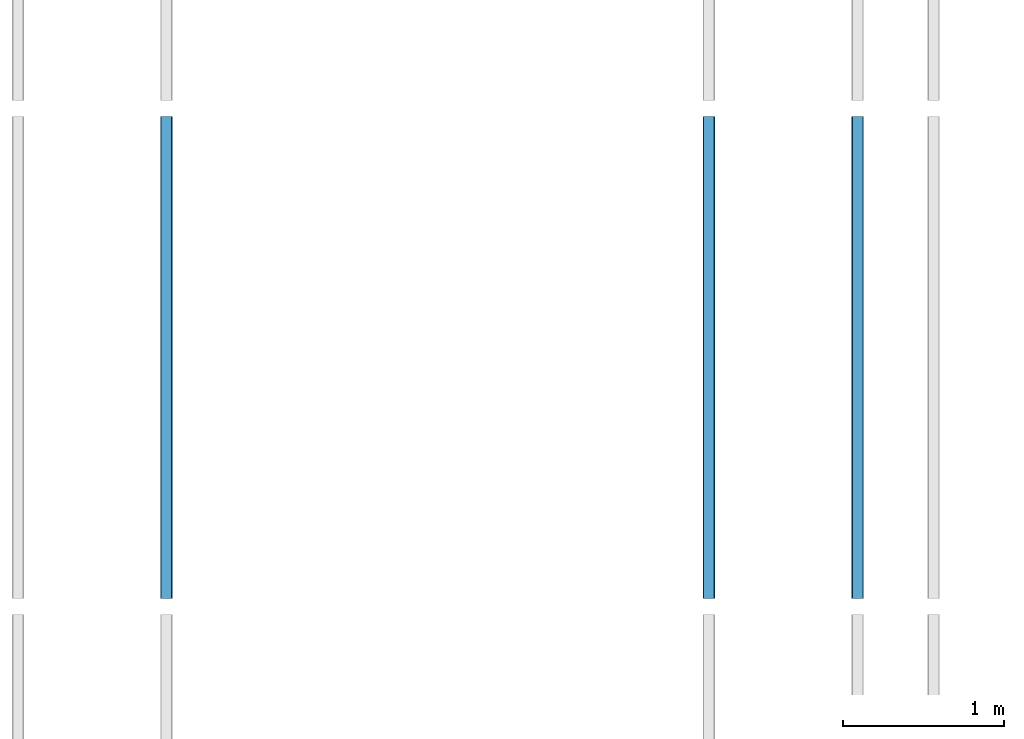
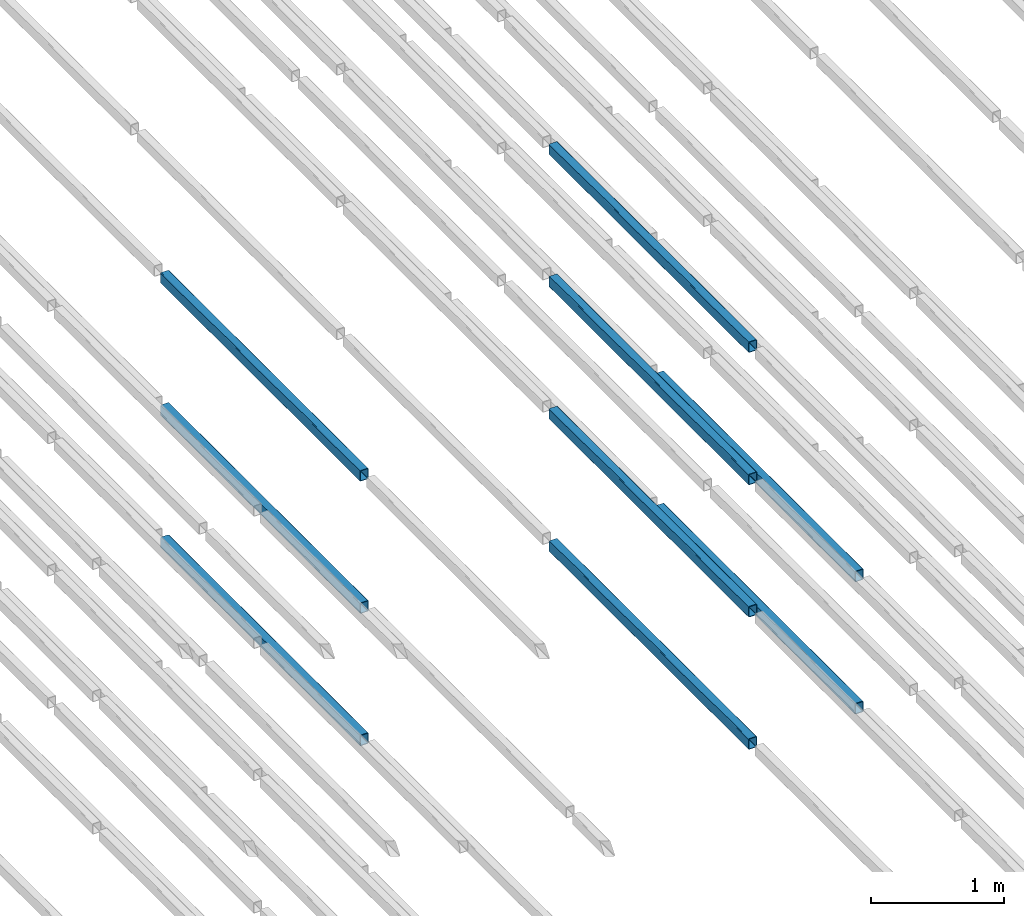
# One storey, part 64 of 290: 9 beams.
"""IFC2X3 building model written with IfcOpenShell, lengths in metres."""

from ifc_helpers import new_model, entity, si_unit, converted_unit, derived_unit, direction, frame, frame_2d, origin, place, context, subcontext, project, spatial, polyline, circle_curve, parameter, trimmed, segment, composite_curve, outline, extrude, material, type_object, element, save


model = new_model("IFC2X3")

# Units and contexts
model_context = context("Model", 3, precision=1e-05, world=origin(), true_north=direction((6.12303176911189e-17, 1.0)))
body_context = subcontext(model_context, "Body", "Model", "MODEL_VIEW")
ifc_project = project(units=[si_unit("LENGTHUNIT", "METRE"), si_unit("AREAUNIT", "SQUARE_METRE"), si_unit("VOLUMEUNIT", "CUBIC_METRE"), converted_unit("PLANEANGLEUNIT", "DEGREE", entity("IfcRatioMeasure", 0.0174532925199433), si_unit("PLANEANGLEUNIT", "RADIAN"), dimensions=[0, 0, 0, 0, 0, 0, 0]), si_unit("MASSUNIT", "GRAM", prefix="KILO"), derived_unit("MASSDENSITYUNIT", [(si_unit("MASSUNIT", "GRAM", prefix="KILO"), 1), (si_unit("LENGTHUNIT", "METRE"), -3)]), derived_unit("MOMENTOFINERTIAUNIT", [(si_unit("LENGTHUNIT", "METRE"), 4)]), si_unit("TIMEUNIT", "SECOND"), si_unit("FREQUENCYUNIT", "HERTZ"), si_unit("THERMODYNAMICTEMPERATUREUNIT", "DEGREE_CELSIUS"), derived_unit("THERMALTRANSMITTANCEUNIT", [(si_unit("MASSUNIT", "GRAM", prefix="KILO"), 1), (si_unit("THERMODYNAMICTEMPERATUREUNIT", "KELVIN"), -1), (si_unit("TIMEUNIT", "SECOND"), -3)]), derived_unit("VOLUMETRICFLOWRATEUNIT", [(si_unit("LENGTHUNIT", "METRE"), 3), (si_unit("TIMEUNIT", "SECOND"), -1)]), si_unit("ELECTRICCURRENTUNIT", "AMPERE"), si_unit("ELECTRICVOLTAGEUNIT", "VOLT"), si_unit("POWERUNIT", "WATT"), si_unit("FORCEUNIT", "NEWTON", prefix="KILO"), si_unit("ILLUMINANCEUNIT", "LUX"), si_unit("LUMINOUSFLUXUNIT", "LUMEN"), si_unit("LUMINOUSINTENSITYUNIT", "CANDELA"), derived_unit("USERDEFINED", [(si_unit("MASSUNIT", "GRAM", prefix="KILO"), -1), (si_unit("LENGTHUNIT", "METRE"), -2), (si_unit("TIMEUNIT", "SECOND"), 3), (si_unit("LUMINOUSFLUXUNIT", "LUMEN"), 1)]), derived_unit("LINEARVELOCITYUNIT", [(si_unit("LENGTHUNIT", "METRE"), 1), (si_unit("TIMEUNIT", "SECOND"), -1)]), si_unit("PRESSUREUNIT", "PASCAL"), derived_unit("USERDEFINED", [(si_unit("LENGTHUNIT", "METRE"), -2), (si_unit("MASSUNIT", "GRAM", prefix="KILO"), 1), (si_unit("TIMEUNIT", "SECOND"), -2)]), derived_unit("LINEARFORCEUNIT", [(si_unit("MASSUNIT", "GRAM", prefix="KILO"), 1), (si_unit("LENGTHUNIT", "METRE"), 1), (si_unit("TIMEUNIT", "SECOND"), -2), (si_unit("LENGTHUNIT", "METRE"), -1)]), derived_unit("PLANARFORCEUNIT", [(si_unit("MASSUNIT", "GRAM", prefix="KILO"), 1), (si_unit("LENGTHUNIT", "METRE"), 1), (si_unit("TIMEUNIT", "SECOND"), -2), (si_unit("LENGTHUNIT", "METRE"), -2)])], contexts=[model_context])

# Site, building, storey
site_placement = place(None, origin())
site = spatial("IfcSite", under=ifc_project, at=site_placement, Name="Default", CompositionType="ELEMENT")
building_placement = place(site_placement, origin())
building = spatial("IfcBuilding", under=site, at=building_placement, CompositionType="ELEMENT")
storey_placement = place(building_placement, frame((0.0, 0.0, 4.0)))
storey = spatial("IfcBuildingStorey", under=building, at=storey_placement, Name="01_OG", CompositionType="ELEMENT", Elevation=4.0)

# Beams
ifc_material = material(Name="Metall - Baustahl S235 blau")
beam_type = type_object("IfcBeamType", Name="RHS Träger (EN 10219-2):RHS 100 x 75 x 5", PredefinedType="NOTDEFINED")
beam_1_placement = place(storey_placement, frame((-194.165111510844, 39.548088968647, 0.0150000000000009), z_axis=(0.0, 0.0, 1.0), x_axis=(0.0, 1.0, 0.0)))
element("IfcBeam", 1, at=beam_1_placement, inside=storey, type_object=beam_type, material=ifc_material, Name="RHS Träger (EN 10219-2):RHS 100 x 75 x 5", ObjectType="RHS Träger (EN 10219-2):RHS 100 x 75 x 5", context=body_context, shape_type="SweptSolid", body=[
    extrude(outline(composite_curve([segment(polyline([(-0.0400000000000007, -0.0374999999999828), (0.0399999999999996, -0.0374999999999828)]), True, "CONTINUOUS"), segment(trimmed(circle_curve(frame_2d((0.0399999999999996, -0.0274999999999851), x_axis=(0.0, 1.0)), 0.01), [parameter(180.0)], [parameter(270.0)], True, "PARAMETER"), True, "CONTINUOUS"), segment(polyline([(0.0499999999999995, -0.0274999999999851), (0.0499999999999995, 0.0274999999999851)]), True, "CONTINUOUS"), segment(trimmed(circle_curve(frame_2d((0.0399999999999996, 0.0274999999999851), x_axis=(0.0, 1.0)), 0.01), [parameter(270.0)], [parameter(4.07110999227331e-13)], True, "PARAMETER"), True, "CONTINUOUS"), segment(polyline([(0.0399999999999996, 0.0375000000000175), (-0.0400000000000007, 0.0375000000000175)]), True, "CONTINUOUS"), segment(trimmed(circle_curve(frame_2d((-0.0400000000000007, 0.0274999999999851), x_axis=(0.0, 1.0)), 0.01), [parameter(360.0)], [parameter(90.0000000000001)], True, "PARAMETER"), True, "CONTINUOUS"), segment(polyline([(-0.0500000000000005, 0.0274999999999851), (-0.0500000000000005, -0.0274999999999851)]), True, "CONTINUOUS"), segment(trimmed(circle_curve(frame_2d((-0.0400000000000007, -0.0274999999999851), x_axis=(0.0, 1.0)), 0.01), [parameter(90.0000000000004)], [parameter(180.0)], True, "PARAMETER"), True, "CONTINUOUS")], self_intersect=False), holes=[composite_curve([segment(trimmed(circle_curve(frame_2d((-0.0400000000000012, 0.0274999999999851), x_axis=(0.0, 1.0)), 0.005), [parameter(360.0)], [parameter(89.9999999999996)], True, "PARAMETER"), False, "CONTINUOUS"), segment(polyline([(-0.0400000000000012, 0.0325000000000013), (0.0399999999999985, 0.0325000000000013)]), True, "CONTINUOUS"), segment(trimmed(circle_curve(frame_2d((0.0399999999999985, 0.0274999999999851), x_axis=(0.0, 1.0)), 0.005), [parameter(270.0)], [parameter(0.0)], True, "PARAMETER"), False, "CONTINUOUS"), segment(polyline([(0.0449999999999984, 0.0274999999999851), (0.0449999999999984, -0.0274999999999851)]), True, "CONTINUOUS"), segment(trimmed(circle_curve(frame_2d((0.0399999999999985, -0.0274999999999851), x_axis=(0.0, 1.0)), 0.005), [parameter(180.0)], [parameter(269.999999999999)], True, "PARAMETER"), False, "CONTINUOUS"), segment(polyline([(0.0399999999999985, -0.0325000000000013), (-0.0400000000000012, -0.0325000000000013)]), True, "CONTINUOUS"), segment(trimmed(circle_curve(frame_2d((-0.0400000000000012, -0.0274999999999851), x_axis=(0.0, 1.0)), 0.005), [parameter(90.0000000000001)], [parameter(180.0)], True, "PARAMETER"), False, "CONTINUOUS"), segment(polyline([(-0.0450000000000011, -0.0274999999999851), (-0.0450000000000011, 0.0274999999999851)]), True, "CONTINUOUS")], self_intersect=False)]), frame((0.000100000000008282, -0.0375000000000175, -0.0500000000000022), z_axis=(1.0, 0.0, 0.0), x_axis=(0.0, 0.0, -1.0)), (0.0, 0.0, 1.0), 2.99979999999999),
])
beam_2_placement = place(storey_placement, frame((-194.165111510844, 39.548088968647, 1.23), z_axis=(0.0, 0.0, 1.0), x_axis=(0.0, 1.0, 0.0)))
element("IfcBeam", 2, at=beam_2_placement, inside=storey, type_object=beam_type, material=ifc_material, Name="RHS Träger (EN 10219-2):RHS 100 x 75 x 5", ObjectType="RHS Träger (EN 10219-2):RHS 100 x 75 x 5", context=body_context, shape_type="SweptSolid", body=[
    extrude(outline(composite_curve([segment(polyline([(-0.0399999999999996, -0.0374999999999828), (0.0399999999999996, -0.0374999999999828)]), True, "CONTINUOUS"), segment(trimmed(circle_curve(frame_2d((0.0399999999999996, -0.0274999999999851), x_axis=(0.0, 1.0)), 0.01), [parameter(180.0)], [parameter(270.0)], True, "PARAMETER"), True, "CONTINUOUS"), segment(polyline([(0.0500000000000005, -0.0274999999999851), (0.0500000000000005, 0.0274999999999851)]), True, "CONTINUOUS"), segment(trimmed(circle_curve(frame_2d((0.0399999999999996, 0.0274999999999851), x_axis=(0.0, 1.0)), 0.01), [parameter(270.0)], [parameter(4.07110999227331e-13)], True, "PARAMETER"), True, "CONTINUOUS"), segment(polyline([(0.0399999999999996, 0.0375000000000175), (-0.0399999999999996, 0.0375000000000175)]), True, "CONTINUOUS"), segment(trimmed(circle_curve(frame_2d((-0.0399999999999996, 0.0274999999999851), x_axis=(0.0, 1.0)), 0.01), [parameter(360.0)], [parameter(90.0000000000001)], True, "PARAMETER"), True, "CONTINUOUS"), segment(polyline([(-0.0499999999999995, 0.0274999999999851), (-0.0499999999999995, -0.0274999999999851)]), True, "CONTINUOUS"), segment(trimmed(circle_curve(frame_2d((-0.0399999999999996, -0.0274999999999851), x_axis=(0.0, 1.0)), 0.01), [parameter(90.0000000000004)], [parameter(180.0)], True, "PARAMETER"), True, "CONTINUOUS")], self_intersect=False), holes=[composite_curve([segment(trimmed(circle_curve(frame_2d((-0.0400000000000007, 0.0274999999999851), x_axis=(0.0, 1.0)), 0.005), [parameter(360.0)], [parameter(89.9999999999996)], True, "PARAMETER"), False, "CONTINUOUS"), segment(polyline([(-0.0400000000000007, 0.0325000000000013), (0.0399999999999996, 0.0325000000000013)]), True, "CONTINUOUS"), segment(trimmed(circle_curve(frame_2d((0.0399999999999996, 0.0274999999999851), x_axis=(0.0, 1.0)), 0.005), [parameter(270.0)], [parameter(0.0)], True, "PARAMETER"), False, "CONTINUOUS"), segment(polyline([(0.0449999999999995, 0.0274999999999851), (0.0449999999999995, -0.0274999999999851)]), True, "CONTINUOUS"), segment(trimmed(circle_curve(frame_2d((0.0399999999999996, -0.0274999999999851), x_axis=(0.0, 1.0)), 0.005), [parameter(180.0)], [parameter(269.999999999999)], True, "PARAMETER"), False, "CONTINUOUS"), segment(polyline([(0.0399999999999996, -0.0325000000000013), (-0.0400000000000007, -0.0325000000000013)]), True, "CONTINUOUS"), segment(trimmed(circle_curve(frame_2d((-0.0400000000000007, -0.0274999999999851), x_axis=(0.0, 1.0)), 0.005), [parameter(90.0000000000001)], [parameter(180.0)], True, "PARAMETER"), False, "CONTINUOUS"), segment(polyline([(-0.0450000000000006, -0.0274999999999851), (-0.0450000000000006, 0.0274999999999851)]), True, "CONTINUOUS")], self_intersect=False)]), frame((0.000100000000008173, -0.0375000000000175, -0.0500000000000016), z_axis=(1.0, 0.0, 0.0), x_axis=(0.0, 0.0, -1.0)), (0.0, 0.0, 1.0), 2.99979999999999),
])
beam_3_placement = place(storey_placement, frame((-194.165111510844, 39.548088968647, 2.445), z_axis=(0.0, 0.0, 1.0), x_axis=(0.0, 1.0, 0.0)))
element("IfcBeam", 3, at=beam_3_placement, inside=storey, type_object=beam_type, material=ifc_material, Name="RHS Träger (EN 10219-2):RHS 100 x 75 x 5", ObjectType="RHS Träger (EN 10219-2):RHS 100 x 75 x 5", context=body_context, shape_type="SweptSolid", body=[
    extrude(outline(composite_curve([segment(polyline([(-0.0399999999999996, -0.0374999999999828), (0.0399999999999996, -0.0374999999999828)]), True, "CONTINUOUS"), segment(trimmed(circle_curve(frame_2d((0.0399999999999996, -0.0274999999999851), x_axis=(0.0, 1.0)), 0.01), [parameter(180.0)], [parameter(270.0)], True, "PARAMETER"), True, "CONTINUOUS"), segment(polyline([(0.0500000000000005, -0.0274999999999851), (0.0500000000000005, 0.0274999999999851)]), True, "CONTINUOUS"), segment(trimmed(circle_curve(frame_2d((0.0399999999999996, 0.0274999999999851), x_axis=(0.0, 1.0)), 0.01), [parameter(270.0)], [parameter(4.07110999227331e-13)], True, "PARAMETER"), True, "CONTINUOUS"), segment(polyline([(0.0399999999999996, 0.0375000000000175), (-0.0399999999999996, 0.0375000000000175)]), True, "CONTINUOUS"), segment(trimmed(circle_curve(frame_2d((-0.0399999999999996, 0.0274999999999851), x_axis=(0.0, 1.0)), 0.01), [parameter(360.0)], [parameter(90.0000000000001)], True, "PARAMETER"), True, "CONTINUOUS"), segment(polyline([(-0.0499999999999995, 0.0274999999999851), (-0.0499999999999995, -0.0274999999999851)]), True, "CONTINUOUS"), segment(trimmed(circle_curve(frame_2d((-0.0399999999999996, -0.0274999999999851), x_axis=(0.0, 1.0)), 0.01), [parameter(90.0000000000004)], [parameter(180.0)], True, "PARAMETER"), True, "CONTINUOUS")], self_intersect=False), holes=[composite_curve([segment(trimmed(circle_curve(frame_2d((-0.0400000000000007, 0.0274999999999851), x_axis=(0.0, 1.0)), 0.005), [parameter(360.0)], [parameter(89.9999999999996)], True, "PARAMETER"), False, "CONTINUOUS"), segment(polyline([(-0.0400000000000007, 0.0325000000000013), (0.0399999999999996, 0.0325000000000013)]), True, "CONTINUOUS"), segment(trimmed(circle_curve(frame_2d((0.0399999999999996, 0.0274999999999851), x_axis=(0.0, 1.0)), 0.005), [parameter(270.0)], [parameter(0.0)], True, "PARAMETER"), False, "CONTINUOUS"), segment(polyline([(0.0449999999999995, 0.0274999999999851), (0.0449999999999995, -0.0274999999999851)]), True, "CONTINUOUS"), segment(trimmed(circle_curve(frame_2d((0.0399999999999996, -0.0274999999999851), x_axis=(0.0, 1.0)), 0.005), [parameter(180.0)], [parameter(269.999999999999)], True, "PARAMETER"), False, "CONTINUOUS"), segment(polyline([(0.0399999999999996, -0.0325000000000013), (-0.0400000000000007, -0.0325000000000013)]), True, "CONTINUOUS"), segment(trimmed(circle_curve(frame_2d((-0.0400000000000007, -0.0274999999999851), x_axis=(0.0, 1.0)), 0.005), [parameter(90.0000000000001)], [parameter(180.0)], True, "PARAMETER"), False, "CONTINUOUS"), segment(polyline([(-0.0450000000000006, -0.0274999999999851), (-0.0450000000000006, 0.0274999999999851)]), True, "CONTINUOUS")], self_intersect=False)]), frame((0.000100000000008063, -0.0375000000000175, -0.0500000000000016), z_axis=(1.0, 0.0, 0.0), x_axis=(0.0, 0.0, -1.0)), (0.0, 0.0, 1.0), 2.99979999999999),
])
beam_4_placement = place(storey_placement, frame((-190.715111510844, 39.548088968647, -1.2), z_axis=(0.0, 0.0, 1.0), x_axis=(0.0, 1.0, 0.0)))
element("IfcBeam", 4, at=beam_4_placement, inside=storey, type_object=beam_type, material=ifc_material, Name="RHS Träger (EN 10219-2):RHS 100 x 75 x 5", ObjectType="RHS Träger (EN 10219-2):RHS 100 x 75 x 5", context=body_context, shape_type="SweptSolid", body=[
    extrude(outline(composite_curve([segment(trimmed(circle_curve(frame_2d((-0.0274999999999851, -0.0400000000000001), x_axis=(1.0, 0.0)), 0.01), [parameter(180.0)], [parameter(270.0)], True, "PARAMETER"), True, "CONTINUOUS"), segment(polyline([(-0.0274999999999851, -0.05), (0.0274999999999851, -0.05)]), True, "CONTINUOUS"), segment(trimmed(circle_curve(frame_2d((0.0274999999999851, -0.0400000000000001), x_axis=(1.0, 0.0)), 0.01), [parameter(270.0)], [parameter(5.08888749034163e-14)], True, "PARAMETER"), True, "CONTINUOUS"), segment(polyline([(0.0375000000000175, -0.0400000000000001), (0.0375000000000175, 0.0400000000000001)]), True, "CONTINUOUS"), segment(trimmed(circle_curve(frame_2d((0.0274999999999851, 0.0400000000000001), x_axis=(1.0, 0.0)), 0.01), [parameter(360.0)], [parameter(89.9999999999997)], True, "PARAMETER"), True, "CONTINUOUS"), segment(polyline([(0.0274999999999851, 0.05), (-0.0274999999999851, 0.05)]), True, "CONTINUOUS"), segment(trimmed(circle_curve(frame_2d((-0.0274999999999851, 0.0400000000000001), x_axis=(1.0, 0.0)), 0.01), [parameter(90.0000000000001)], [parameter(180.0)], True, "PARAMETER"), True, "CONTINUOUS"), segment(polyline([(-0.0374999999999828, 0.0400000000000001), (-0.0374999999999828, -0.0400000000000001)]), True, "CONTINUOUS")], self_intersect=False), holes=[composite_curve([segment(polyline([(0.0274999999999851, -0.0450000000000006), (-0.0274999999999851, -0.0450000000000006)]), True, "CONTINUOUS"), segment(trimmed(circle_curve(frame_2d((-0.0274999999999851, -0.0400000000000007), x_axis=(1.0, 0.0)), 0.005), [parameter(180.0)], [parameter(270.0)], True, "PARAMETER"), False, "CONTINUOUS"), segment(polyline([(-0.0325000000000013, -0.0400000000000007), (-0.0325000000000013, 0.039999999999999)]), True, "CONTINUOUS"), segment(trimmed(circle_curve(frame_2d((-0.0274999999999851, 0.039999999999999), x_axis=(1.0, 0.0)), 0.005), [parameter(90.0000000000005)], [parameter(180.0)], True, "PARAMETER"), False, "CONTINUOUS"), segment(polyline([(-0.0274999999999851, 0.044999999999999), (0.0274999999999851, 0.044999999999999)]), True, "CONTINUOUS"), segment(trimmed(circle_curve(frame_2d((0.0274999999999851, 0.039999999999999), x_axis=(1.0, 0.0)), 0.005), [parameter(0.0)], [parameter(90.0000000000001)], True, "PARAMETER"), False, "CONTINUOUS"), segment(polyline([(0.0325000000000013, 0.039999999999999), (0.0325000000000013, -0.0400000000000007)]), True, "CONTINUOUS"), segment(trimmed(circle_curve(frame_2d((0.0274999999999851, -0.0400000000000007), x_axis=(1.0, 0.0)), 0.005), [parameter(270.0)], [parameter(4.07110999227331e-13)], True, "PARAMETER"), False, "CONTINUOUS")], self_intersect=False)]), frame((9.99999999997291e-05, 0.0375000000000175, -0.0500000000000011), z_axis=(1.0, 0.0, 0.0), x_axis=(0.0, -1.0, 0.0)), (0.0, 0.0, 1.0), 2.99979999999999),
])
beam_5_placement = place(storey_placement, frame((-190.715111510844, 39.548088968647, 0.0150000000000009), z_axis=(0.0, 0.0, 1.0), x_axis=(0.0, 1.0, 0.0)))
element("IfcBeam", 5, at=beam_5_placement, inside=storey, type_object=beam_type, material=ifc_material, Name="RHS Träger (EN 10219-2):RHS 100 x 75 x 5", ObjectType="RHS Träger (EN 10219-2):RHS 100 x 75 x 5", context=body_context, shape_type="SweptSolid", body=[
    extrude(outline(composite_curve([segment(trimmed(circle_curve(frame_2d((-0.0274999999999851, -0.0400000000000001), x_axis=(1.0, 0.0)), 0.01), [parameter(180.0)], [parameter(270.0)], True, "PARAMETER"), True, "CONTINUOUS"), segment(polyline([(-0.0274999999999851, -0.05), (0.0274999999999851, -0.05)]), True, "CONTINUOUS"), segment(trimmed(circle_curve(frame_2d((0.0274999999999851, -0.0400000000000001), x_axis=(1.0, 0.0)), 0.01), [parameter(270.0)], [parameter(5.08888749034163e-14)], True, "PARAMETER"), True, "CONTINUOUS"), segment(polyline([(0.0375000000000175, -0.0400000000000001), (0.0375000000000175, 0.0400000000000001)]), True, "CONTINUOUS"), segment(trimmed(circle_curve(frame_2d((0.0274999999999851, 0.0400000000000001), x_axis=(1.0, 0.0)), 0.01), [parameter(360.0)], [parameter(89.9999999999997)], True, "PARAMETER"), True, "CONTINUOUS"), segment(polyline([(0.0274999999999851, 0.05), (-0.0274999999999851, 0.05)]), True, "CONTINUOUS"), segment(trimmed(circle_curve(frame_2d((-0.0274999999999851, 0.0400000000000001), x_axis=(1.0, 0.0)), 0.01), [parameter(90.0000000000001)], [parameter(180.0)], True, "PARAMETER"), True, "CONTINUOUS"), segment(polyline([(-0.0374999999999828, 0.0400000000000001), (-0.0374999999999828, -0.0400000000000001)]), True, "CONTINUOUS")], self_intersect=False), holes=[composite_curve([segment(polyline([(0.0274999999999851, -0.0450000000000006), (-0.0274999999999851, -0.0450000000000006)]), True, "CONTINUOUS"), segment(trimmed(circle_curve(frame_2d((-0.0274999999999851, -0.0400000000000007), x_axis=(1.0, 0.0)), 0.005), [parameter(180.0)], [parameter(270.0)], True, "PARAMETER"), False, "CONTINUOUS"), segment(polyline([(-0.0325000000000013, -0.0400000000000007), (-0.0325000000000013, 0.039999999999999)]), True, "CONTINUOUS"), segment(trimmed(circle_curve(frame_2d((-0.0274999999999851, 0.039999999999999), x_axis=(1.0, 0.0)), 0.005), [parameter(90.0000000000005)], [parameter(180.0)], True, "PARAMETER"), False, "CONTINUOUS"), segment(polyline([(-0.0274999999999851, 0.044999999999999), (0.0274999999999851, 0.044999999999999)]), True, "CONTINUOUS"), segment(trimmed(circle_curve(frame_2d((0.0274999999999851, 0.039999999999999), x_axis=(1.0, 0.0)), 0.005), [parameter(0.0)], [parameter(90.0000000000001)], True, "PARAMETER"), False, "CONTINUOUS"), segment(polyline([(0.0325000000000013, 0.039999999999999), (0.0325000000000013, -0.0400000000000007)]), True, "CONTINUOUS"), segment(trimmed(circle_curve(frame_2d((0.0274999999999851, -0.0400000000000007), x_axis=(1.0, 0.0)), 0.005), [parameter(270.0)], [parameter(4.07110999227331e-13)], True, "PARAMETER"), False, "CONTINUOUS")], self_intersect=False)]), frame((9.99999999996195e-05, 0.0375000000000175, -0.0500000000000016), z_axis=(1.0, 0.0, 0.0), x_axis=(0.0, -1.0, 0.0)), (0.0, 0.0, 1.0), 2.99979999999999),
])
beam_6_placement = place(storey_placement, frame((-190.715111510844, 39.548088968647, 1.23), z_axis=(0.0, 0.0, 1.0), x_axis=(0.0, 1.0, 0.0)))
element("IfcBeam", 6, at=beam_6_placement, inside=storey, type_object=beam_type, material=ifc_material, Name="RHS Träger (EN 10219-2):RHS 100 x 75 x 5", ObjectType="RHS Träger (EN 10219-2):RHS 100 x 75 x 5", context=body_context, shape_type="SweptSolid", body=[
    extrude(outline(composite_curve([segment(trimmed(circle_curve(frame_2d((-0.0274999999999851, -0.0399999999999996), x_axis=(1.0, 0.0)), 0.01), [parameter(180.0)], [parameter(270.0)], True, "PARAMETER"), True, "CONTINUOUS"), segment(polyline([(-0.0274999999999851, -0.0499999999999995), (0.0274999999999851, -0.0499999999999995)]), True, "CONTINUOUS"), segment(trimmed(circle_curve(frame_2d((0.0274999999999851, -0.0399999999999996), x_axis=(1.0, 0.0)), 0.01), [parameter(270.0)], [parameter(5.08888749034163e-14)], True, "PARAMETER"), True, "CONTINUOUS"), segment(polyline([(0.0375000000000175, -0.0399999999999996), (0.0375000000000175, 0.0399999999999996)]), True, "CONTINUOUS"), segment(trimmed(circle_curve(frame_2d((0.0274999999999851, 0.0399999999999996), x_axis=(1.0, 0.0)), 0.01), [parameter(360.0)], [parameter(89.9999999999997)], True, "PARAMETER"), True, "CONTINUOUS"), segment(polyline([(0.0274999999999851, 0.0500000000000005), (-0.0274999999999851, 0.0500000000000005)]), True, "CONTINUOUS"), segment(trimmed(circle_curve(frame_2d((-0.0274999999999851, 0.0399999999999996), x_axis=(1.0, 0.0)), 0.01), [parameter(90.0000000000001)], [parameter(180.0)], True, "PARAMETER"), True, "CONTINUOUS"), segment(polyline([(-0.0374999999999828, 0.0399999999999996), (-0.0374999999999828, -0.0399999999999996)]), True, "CONTINUOUS")], self_intersect=False), holes=[composite_curve([segment(polyline([(0.0274999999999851, -0.0450000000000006), (-0.0274999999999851, -0.0450000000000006)]), True, "CONTINUOUS"), segment(trimmed(circle_curve(frame_2d((-0.0274999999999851, -0.0400000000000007), x_axis=(1.0, 0.0)), 0.005), [parameter(180.0)], [parameter(270.0)], True, "PARAMETER"), False, "CONTINUOUS"), segment(polyline([(-0.0325000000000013, -0.0400000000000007), (-0.0325000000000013, 0.0399999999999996)]), True, "CONTINUOUS"), segment(trimmed(circle_curve(frame_2d((-0.0274999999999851, 0.0399999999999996), x_axis=(1.0, 0.0)), 0.005), [parameter(90.0000000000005)], [parameter(180.0)], True, "PARAMETER"), False, "CONTINUOUS"), segment(polyline([(-0.0274999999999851, 0.0449999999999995), (0.0274999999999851, 0.0449999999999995)]), True, "CONTINUOUS"), segment(trimmed(circle_curve(frame_2d((0.0274999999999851, 0.0399999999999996), x_axis=(1.0, 0.0)), 0.005), [parameter(0.0)], [parameter(90.0000000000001)], True, "PARAMETER"), False, "CONTINUOUS"), segment(polyline([(0.0325000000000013, 0.0399999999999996), (0.0325000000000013, -0.0400000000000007)]), True, "CONTINUOUS"), segment(trimmed(circle_curve(frame_2d((0.0274999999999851, -0.0400000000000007), x_axis=(1.0, 0.0)), 0.005), [parameter(270.0)], [parameter(4.07110999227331e-13)], True, "PARAMETER"), False, "CONTINUOUS")], self_intersect=False)]), frame((9.99999999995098e-05, 0.0375000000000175, -0.0500000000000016), z_axis=(1.0, 0.0, 0.0), x_axis=(0.0, -1.0, 0.0)), (0.0, 0.0, 1.0), 2.99979999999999),
])
beam_7_placement = place(storey_placement, frame((-190.715111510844, 39.548088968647, 2.445), z_axis=(0.0, 0.0, 1.0), x_axis=(0.0, 1.0, 0.0)))
element("IfcBeam", 7, at=beam_7_placement, inside=storey, type_object=beam_type, material=ifc_material, Name="RHS Träger (EN 10219-2):RHS 100 x 75 x 5", ObjectType="RHS Träger (EN 10219-2):RHS 100 x 75 x 5", context=body_context, shape_type="SweptSolid", body=[
    extrude(outline(composite_curve([segment(trimmed(circle_curve(frame_2d((-0.0274999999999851, -0.0399999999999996), x_axis=(1.0, 0.0)), 0.01), [parameter(180.0)], [parameter(270.0)], True, "PARAMETER"), True, "CONTINUOUS"), segment(polyline([(-0.0274999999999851, -0.0499999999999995), (0.0274999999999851, -0.0499999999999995)]), True, "CONTINUOUS"), segment(trimmed(circle_curve(frame_2d((0.0274999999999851, -0.0399999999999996), x_axis=(1.0, 0.0)), 0.01), [parameter(270.0)], [parameter(5.08888749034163e-14)], True, "PARAMETER"), True, "CONTINUOUS"), segment(polyline([(0.0375000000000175, -0.0399999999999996), (0.0375000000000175, 0.0399999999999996)]), True, "CONTINUOUS"), segment(trimmed(circle_curve(frame_2d((0.0274999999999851, 0.0399999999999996), x_axis=(1.0, 0.0)), 0.01), [parameter(360.0)], [parameter(89.9999999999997)], True, "PARAMETER"), True, "CONTINUOUS"), segment(polyline([(0.0274999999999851, 0.0500000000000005), (-0.0274999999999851, 0.0500000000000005)]), True, "CONTINUOUS"), segment(trimmed(circle_curve(frame_2d((-0.0274999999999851, 0.0399999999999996), x_axis=(1.0, 0.0)), 0.01), [parameter(90.0000000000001)], [parameter(180.0)], True, "PARAMETER"), True, "CONTINUOUS"), segment(polyline([(-0.0374999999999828, 0.0399999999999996), (-0.0374999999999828, -0.0399999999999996)]), True, "CONTINUOUS")], self_intersect=False), holes=[composite_curve([segment(polyline([(0.0274999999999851, -0.0450000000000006), (-0.0274999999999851, -0.0450000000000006)]), True, "CONTINUOUS"), segment(trimmed(circle_curve(frame_2d((-0.0274999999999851, -0.0400000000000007), x_axis=(1.0, 0.0)), 0.005), [parameter(180.0)], [parameter(270.0)], True, "PARAMETER"), False, "CONTINUOUS"), segment(polyline([(-0.0325000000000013, -0.0400000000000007), (-0.0325000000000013, 0.0399999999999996)]), True, "CONTINUOUS"), segment(trimmed(circle_curve(frame_2d((-0.0274999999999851, 0.0399999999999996), x_axis=(1.0, 0.0)), 0.005), [parameter(90.0000000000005)], [parameter(180.0)], True, "PARAMETER"), False, "CONTINUOUS"), segment(polyline([(-0.0274999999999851, 0.0449999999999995), (0.0274999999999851, 0.0449999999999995)]), True, "CONTINUOUS"), segment(trimmed(circle_curve(frame_2d((0.0274999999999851, 0.0399999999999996), x_axis=(1.0, 0.0)), 0.005), [parameter(0.0)], [parameter(90.0000000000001)], True, "PARAMETER"), False, "CONTINUOUS"), segment(polyline([(0.0325000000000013, 0.0399999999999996), (0.0325000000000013, -0.0400000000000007)]), True, "CONTINUOUS"), segment(trimmed(circle_curve(frame_2d((0.0274999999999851, -0.0400000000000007), x_axis=(1.0, 0.0)), 0.005), [parameter(270.0)], [parameter(4.07110999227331e-13)], True, "PARAMETER"), False, "CONTINUOUS")], self_intersect=False)]), frame((9.99999999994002e-05, 0.0375000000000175, -0.0500000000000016), z_axis=(1.0, 0.0, 0.0), x_axis=(0.0, -1.0, 0.0)), (0.0, 0.0, 1.0), 2.99979999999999),
])
beam_8_placement = place(storey_placement, frame((-189.865111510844, 39.548088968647, -1.2), z_axis=(0.0, 0.0, 1.0), x_axis=(0.0, 1.0, 0.0)))
element("IfcBeam", 8, at=beam_8_placement, inside=storey, type_object=beam_type, material=ifc_material, Name="RHS Träger (EN 10219-2):RHS 100 x 75 x 5", ObjectType="RHS Träger (EN 10219-2):RHS 100 x 75 x 5", context=body_context, shape_type="SweptSolid", body=[
    extrude(outline(composite_curve([segment(polyline([(-0.0400000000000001, -0.0375000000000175), (0.0400000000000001, -0.0375000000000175)]), True, "CONTINUOUS"), segment(trimmed(circle_curve(frame_2d((0.0400000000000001, -0.0275000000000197), x_axis=(0.0, 1.0)), 0.01), [parameter(180.0)], [parameter(270.0)], True, "PARAMETER"), True, "CONTINUOUS"), segment(polyline([(0.05, -0.0275000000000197), (0.05, 0.0274999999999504)]), True, "CONTINUOUS"), segment(trimmed(circle_curve(frame_2d((0.0400000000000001, 0.0274999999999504), x_axis=(0.0, 1.0)), 0.01), [parameter(270.0)], [parameter(4.07110999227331e-13)], True, "PARAMETER"), True, "CONTINUOUS"), segment(polyline([(0.0400000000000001, 0.0374999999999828), (-0.0400000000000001, 0.0374999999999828)]), True, "CONTINUOUS"), segment(trimmed(circle_curve(frame_2d((-0.0400000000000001, 0.0274999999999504), x_axis=(0.0, 1.0)), 0.01), [parameter(360.0)], [parameter(90.0000000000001)], True, "PARAMETER"), True, "CONTINUOUS"), segment(polyline([(-0.05, 0.0274999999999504), (-0.05, -0.0275000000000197)]), True, "CONTINUOUS"), segment(trimmed(circle_curve(frame_2d((-0.0400000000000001, -0.0275000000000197), x_axis=(0.0, 1.0)), 0.01), [parameter(90.0000000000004)], [parameter(180.0)], True, "PARAMETER"), True, "CONTINUOUS")], self_intersect=False), holes=[composite_curve([segment(trimmed(circle_curve(frame_2d((-0.0400000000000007, 0.0274999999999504), x_axis=(0.0, 1.0)), 0.005), [parameter(360.0)], [parameter(89.9999999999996)], True, "PARAMETER"), False, "CONTINUOUS"), segment(polyline([(-0.0400000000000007, 0.0324999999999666), (0.039999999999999, 0.0324999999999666)]), True, "CONTINUOUS"), segment(trimmed(circle_curve(frame_2d((0.039999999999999, 0.0274999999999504), x_axis=(0.0, 1.0)), 0.005), [parameter(270.0)], [parameter(0.0)], True, "PARAMETER"), False, "CONTINUOUS"), segment(polyline([(0.044999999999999, 0.0274999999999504), (0.044999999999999, -0.0275000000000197)]), True, "CONTINUOUS"), segment(trimmed(circle_curve(frame_2d((0.039999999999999, -0.0275000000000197), x_axis=(0.0, 1.0)), 0.005), [parameter(180.0)], [parameter(269.999999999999)], True, "PARAMETER"), False, "CONTINUOUS"), segment(polyline([(0.039999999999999, -0.0325000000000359), (-0.0400000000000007, -0.0325000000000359)]), True, "CONTINUOUS"), segment(trimmed(circle_curve(frame_2d((-0.0400000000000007, -0.0275000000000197), x_axis=(0.0, 1.0)), 0.005), [parameter(90.0000000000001)], [parameter(180.0)], True, "PARAMETER"), False, "CONTINUOUS"), segment(polyline([(-0.0450000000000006, -0.0275000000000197), (-0.0450000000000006, 0.0274999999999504)]), True, "CONTINUOUS")], self_intersect=False)]), frame((0.000100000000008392, -0.0374999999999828, -0.0500000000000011), z_axis=(1.0, 0.0, 0.0), x_axis=(0.0, 0.0, -1.0)), (0.0, 0.0, 1.0), 2.99979999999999),
])
beam_9_placement = place(storey_placement, frame((-189.865111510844, 39.548088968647, 0.0150000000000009), z_axis=(0.0, 0.0, 1.0), x_axis=(0.0, 1.0, 0.0)))
element("IfcBeam", 9, at=beam_9_placement, inside=storey, type_object=beam_type, material=ifc_material, Name="RHS Träger (EN 10219-2):RHS 100 x 75 x 5", ObjectType="RHS Träger (EN 10219-2):RHS 100 x 75 x 5", context=body_context, shape_type="SweptSolid", body=[
    extrude(outline(composite_curve([segment(polyline([(-0.0400000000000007, -0.0375000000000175), (0.0399999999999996, -0.0375000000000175)]), True, "CONTINUOUS"), segment(trimmed(circle_curve(frame_2d((0.0399999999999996, -0.0275000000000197), x_axis=(0.0, 1.0)), 0.01), [parameter(180.0)], [parameter(270.0)], True, "PARAMETER"), True, "CONTINUOUS"), segment(polyline([(0.0499999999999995, -0.0275000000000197), (0.0499999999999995, 0.0274999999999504)]), True, "CONTINUOUS"), segment(trimmed(circle_curve(frame_2d((0.0399999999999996, 0.0274999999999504), x_axis=(0.0, 1.0)), 0.01), [parameter(270.0)], [parameter(4.07110999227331e-13)], True, "PARAMETER"), True, "CONTINUOUS"), segment(polyline([(0.0399999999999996, 0.0374999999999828), (-0.0400000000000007, 0.0374999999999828)]), True, "CONTINUOUS"), segment(trimmed(circle_curve(frame_2d((-0.0400000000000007, 0.0274999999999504), x_axis=(0.0, 1.0)), 0.01), [parameter(360.0)], [parameter(90.0000000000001)], True, "PARAMETER"), True, "CONTINUOUS"), segment(polyline([(-0.0500000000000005, 0.0274999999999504), (-0.0500000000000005, -0.0275000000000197)]), True, "CONTINUOUS"), segment(trimmed(circle_curve(frame_2d((-0.0400000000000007, -0.0275000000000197), x_axis=(0.0, 1.0)), 0.01), [parameter(90.0000000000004)], [parameter(180.0)], True, "PARAMETER"), True, "CONTINUOUS")], self_intersect=False), holes=[composite_curve([segment(trimmed(circle_curve(frame_2d((-0.0400000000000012, 0.0274999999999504), x_axis=(0.0, 1.0)), 0.005), [parameter(360.0)], [parameter(89.9999999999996)], True, "PARAMETER"), False, "CONTINUOUS"), segment(polyline([(-0.0400000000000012, 0.0324999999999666), (0.0399999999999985, 0.0324999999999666)]), True, "CONTINUOUS"), segment(trimmed(circle_curve(frame_2d((0.0399999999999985, 0.0274999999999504), x_axis=(0.0, 1.0)), 0.005), [parameter(270.0)], [parameter(0.0)], True, "PARAMETER"), False, "CONTINUOUS"), segment(polyline([(0.0449999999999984, 0.0274999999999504), (0.0449999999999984, -0.0275000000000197)]), True, "CONTINUOUS"), segment(trimmed(circle_curve(frame_2d((0.0399999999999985, -0.0275000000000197), x_axis=(0.0, 1.0)), 0.005), [parameter(180.0)], [parameter(269.999999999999)], True, "PARAMETER"), False, "CONTINUOUS"), segment(polyline([(0.0399999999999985, -0.0325000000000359), (-0.0400000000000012, -0.0325000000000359)]), True, "CONTINUOUS"), segment(trimmed(circle_curve(frame_2d((-0.0400000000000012, -0.0275000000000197), x_axis=(0.0, 1.0)), 0.005), [parameter(90.0000000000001)], [parameter(180.0)], True, "PARAMETER"), False, "CONTINUOUS"), segment(polyline([(-0.0450000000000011, -0.0275000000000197), (-0.0450000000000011, 0.0274999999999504)]), True, "CONTINUOUS")], self_intersect=False)]), frame((0.000100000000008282, -0.0374999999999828, -0.0500000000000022), z_axis=(1.0, 0.0, 0.0), x_axis=(0.0, 0.0, -1.0)), (0.0, 0.0, 1.0), 2.99979999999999),
])

save(model, "model.ifc")
